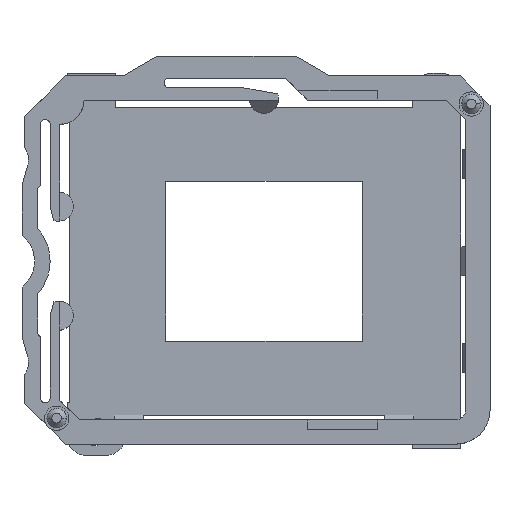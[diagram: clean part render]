
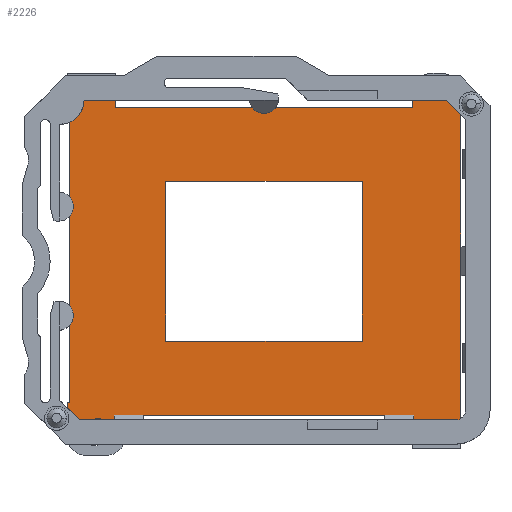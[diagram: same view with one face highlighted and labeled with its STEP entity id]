
A CAD part, top view. The second image highlights one B-rep face of the part: STEP entity #2226.
In plain terms, the highlighted planar face has unit normal (0, 0, 1).
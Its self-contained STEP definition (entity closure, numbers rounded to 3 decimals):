
#947=CARTESIAN_POINT('',(21.,-16.366,-0.91));
#948=VERTEX_POINT('',#947);
#956=CARTESIAN_POINT('',(20.5,-16.5,-0.91));
#957=VERTEX_POINT('',#956);
#958=CARTESIAN_POINT('',(20.5,-15.5,-0.91));
#959=DIRECTION('',(0.0,0.0,-1.));
#960=DIRECTION('',(0.707,-0.707,0.0));
#961=AXIS2_PLACEMENT_3D('',#958,#959,#960);
#962=CIRCLE('',#961,1.);
#963=EDGE_CURVE('',#948,#957,#962,.T.);
#2032=CARTESIAN_POINT('',(-19.64,19.25,-0.91));
#2033=DIRECTION('',(0.0,0.0,-1.0));
#2034=DIRECTION('',(-1.0,0.0,0.0));
#2035=AXIS2_PLACEMENT_3D('',#2032,#2033,#2034);
#2036=PLANE('',#2035);
#2037=CARTESIAN_POINT('',(-17.89,16.5,-0.91));
#2038=VERTEX_POINT('',#2037);
#2039=CARTESIAN_POINT('',(-14.64,16.5,-0.91));
#2040=VERTEX_POINT('',#2039);
#2041=CARTESIAN_POINT('',(-17.89,16.5,-0.91));
#2042=DIRECTION('',(1.0,0.0,0.0));
#2043=VECTOR('',#2042,3.25);
#2044=LINE('',#2041,#2043);
#2045=EDGE_CURVE('',#2038,#2040,#2044,.T.);
#2046=ORIENTED_EDGE('',*,*,#2045,.F.);
#2047=CARTESIAN_POINT('',(-19.386,14.21,-0.91));
#2048=VERTEX_POINT('',#2047);
#2049=CARTESIAN_POINT('',(-20.39,16.5,-0.91));
#2050=DIRECTION('',(0.0,0.0,1.0));
#2051=DIRECTION('',(1.0,0.0,0.0));
#2052=AXIS2_PLACEMENT_3D('',#2049,#2050,#2051);
#2053=CIRCLE('',#2052,2.5);
#2054=EDGE_CURVE('',#2048,#2038,#2053,.T.);
#2055=ORIENTED_EDGE('',*,*,#2054,.F.);
#2056=CARTESIAN_POINT('',(-19.386,-14.73,-0.91));
#2057=VERTEX_POINT('',#2056);
#2058=CARTESIAN_POINT('',(-19.386,14.21,-0.91));
#2059=DIRECTION('',(0.0,-1.0,0.0));
#2060=VECTOR('',#2059,28.94);
#2061=LINE('',#2058,#2060);
#2062=EDGE_CURVE('',#2048,#2057,#2061,.T.);
#2063=ORIENTED_EDGE('',*,*,#2062,.T.);
#2064=CARTESIAN_POINT('',(-19.64,-14.73,-0.91));
#2065=VERTEX_POINT('',#2064);
#2066=CARTESIAN_POINT('',(-19.386,-14.73,-0.91));
#2067=DIRECTION('',(-1.0,0.0,0.0));
#2068=VECTOR('',#2067,0.254);
#2069=LINE('',#2066,#2068);
#2070=EDGE_CURVE('',#2057,#2065,#2069,.T.);
#2071=ORIENTED_EDGE('',*,*,#2070,.T.);
#2072=CARTESIAN_POINT('',(-19.64,-15.25,-0.91));
#2073=VERTEX_POINT('',#2072);
#2074=CARTESIAN_POINT('',(-19.64,-15.25,-0.91));
#2075=DIRECTION('',(0.0,1.0,0.0));
#2076=VECTOR('',#2075,0.52);
#2077=LINE('',#2074,#2076);
#2078=EDGE_CURVE('',#2073,#2065,#2077,.T.);
#2079=ORIENTED_EDGE('',*,*,#2078,.F.);
#2080=CARTESIAN_POINT('',(-18.39,-16.5,-0.91));
#2081=VERTEX_POINT('',#2080);
#2082=CARTESIAN_POINT('',(-18.39,-16.5,-0.91));
#2083=DIRECTION('',(-0.707,0.707,0.));
#2084=VECTOR('',#2083,1.768);
#2085=LINE('',#2082,#2084);
#2086=EDGE_CURVE('',#2081,#2073,#2085,.T.);
#2087=ORIENTED_EDGE('',*,*,#2086,.F.);
#2088=CARTESIAN_POINT('',(-17.104,-16.5,-0.91));
#2089=VERTEX_POINT('',#2088);
#2090=CARTESIAN_POINT('',(-17.104,-16.5,-0.91));
#2091=DIRECTION('',(-1.0,0.0,0.0));
#2092=VECTOR('',#2091,1.286);
#2093=LINE('',#2090,#2092);
#2094=EDGE_CURVE('',#2089,#2081,#2093,.T.);
#2095=ORIENTED_EDGE('',*,*,#2094,.F.);
#2096=CARTESIAN_POINT('',(-15.822,-16.5,-0.91));
#2097=VERTEX_POINT('',#2096);
#2098=CARTESIAN_POINT('',(-16.463,-17.573,-0.91));
#2099=DIRECTION('',(0.0,0.0,-1.0));
#2100=DIRECTION('',(1.0,0.0,0.0));
#2101=AXIS2_PLACEMENT_3D('',#2098,#2099,#2100);
#2102=CIRCLE('',#2101,1.25);
#2103=EDGE_CURVE('',#2089,#2097,#2102,.T.);
#2104=ORIENTED_EDGE('',*,*,#2103,.T.);
#2105=CARTESIAN_POINT('',(-13.64,-16.5,-0.91));
#2106=VERTEX_POINT('',#2105);
#2107=CARTESIAN_POINT('',(-13.64,-16.5,-0.91));
#2108=DIRECTION('',(-1.0,0.0,0.0));
#2109=VECTOR('',#2108,2.182);
#2110=LINE('',#2107,#2109);
#2111=EDGE_CURVE('',#2106,#2097,#2110,.T.);
#2112=ORIENTED_EDGE('',*,*,#2111,.F.);
#2113=CARTESIAN_POINT('',(-13.64,-16.0,-0.91));
#2114=VERTEX_POINT('',#2113);
#2115=CARTESIAN_POINT('',(-13.64,-16.0,-0.91));
#2116=DIRECTION('',(0.0,-1.0,0.0));
#2117=VECTOR('',#2116,0.5);
#2118=LINE('',#2115,#2117);
#2119=EDGE_CURVE('',#2114,#2106,#2118,.T.);
#2120=ORIENTED_EDGE('',*,*,#2119,.F.);
#2121=CARTESIAN_POINT('',(16.,-16.0,-0.91));
#2122=VERTEX_POINT('',#2121);
#2123=CARTESIAN_POINT('',(16.,-16.0,-0.91));
#2124=DIRECTION('',(-1.0,0.0,0.0));
#2125=VECTOR('',#2124,29.64);
#2126=LINE('',#2123,#2125);
#2127=EDGE_CURVE('',#2122,#2114,#2126,.T.);
#2128=ORIENTED_EDGE('',*,*,#2127,.F.);
#2129=CARTESIAN_POINT('',(16.,-16.5,-0.91));
#2130=VERTEX_POINT('',#2129);
#2131=CARTESIAN_POINT('',(16.,-16.5,-0.91));
#2132=DIRECTION('',(0.0,1.0,0.0));
#2133=VECTOR('',#2132,0.5);
#2134=LINE('',#2131,#2133);
#2135=EDGE_CURVE('',#2130,#2122,#2134,.T.);
#2136=ORIENTED_EDGE('',*,*,#2135,.F.);
#2137=CARTESIAN_POINT('',(20.5,-16.5,-0.91));
#2138=DIRECTION('',(-1.0,0.0,0.0));
#2139=VECTOR('',#2138,4.5);
#2140=LINE('',#2137,#2139);
#2141=EDGE_CURVE('',#957,#2130,#2140,.T.);
#2142=ORIENTED_EDGE('',*,*,#2141,.F.);
#2143=ORIENTED_EDGE('',*,*,#963,.F.);
#2144=CARTESIAN_POINT('',(21.,15.,-0.91));
#2145=VERTEX_POINT('',#2144);
#2146=CARTESIAN_POINT('',(21.,15.,-0.91));
#2147=DIRECTION('',(0.0,-1.0,0.0));
#2148=VECTOR('',#2147,31.366);
#2149=LINE('',#2146,#2148);
#2150=EDGE_CURVE('',#2145,#948,#2149,.T.);
#2151=ORIENTED_EDGE('',*,*,#2150,.F.);
#2152=CARTESIAN_POINT('',(19.5,16.5,-0.91));
#2153=VERTEX_POINT('',#2152);
#2154=CARTESIAN_POINT('',(19.5,16.5,-0.91));
#2155=DIRECTION('',(0.707,-0.707,0.));
#2156=VECTOR('',#2155,2.121);
#2157=LINE('',#2154,#2156);
#2158=EDGE_CURVE('',#2153,#2145,#2157,.T.);
#2159=ORIENTED_EDGE('',*,*,#2158,.F.);
#2160=CARTESIAN_POINT('',(16.,16.5,-0.91));
#2161=VERTEX_POINT('',#2160);
#2162=CARTESIAN_POINT('',(16.,16.5,-0.91));
#2163=DIRECTION('',(1.0,0.0,0.0));
#2164=VECTOR('',#2163,3.5);
#2165=LINE('',#2162,#2164);
#2166=EDGE_CURVE('',#2161,#2153,#2165,.T.);
#2167=ORIENTED_EDGE('',*,*,#2166,.F.);
#2168=CARTESIAN_POINT('',(16.,15.75,-0.91));
#2169=VERTEX_POINT('',#2168);
#2170=CARTESIAN_POINT('',(16.,15.75,-0.91));
#2171=DIRECTION('',(0.0,1.0,0.0));
#2172=VECTOR('',#2171,0.75);
#2173=LINE('',#2170,#2172);
#2174=EDGE_CURVE('',#2169,#2161,#2173,.T.);
#2175=ORIENTED_EDGE('',*,*,#2174,.F.);
#2176=CARTESIAN_POINT('',(-14.64,15.75,-0.91));
#2177=VERTEX_POINT('',#2176);
#2178=CARTESIAN_POINT('',(-14.64,15.75,-0.91));
#2179=DIRECTION('',(1.0,0.0,0.0));
#2180=VECTOR('',#2179,30.64);
#2181=LINE('',#2178,#2180);
#2182=EDGE_CURVE('',#2177,#2169,#2181,.T.);
#2183=ORIENTED_EDGE('',*,*,#2182,.F.);
#2184=CARTESIAN_POINT('',(-14.64,16.5,-0.91));
#2185=DIRECTION('',(0.0,-1.0,0.0));
#2186=VECTOR('',#2185,0.75);
#2187=LINE('',#2184,#2186);
#2188=EDGE_CURVE('',#2040,#2177,#2187,.T.);
#2189=ORIENTED_EDGE('',*,*,#2188,.F.);
#2190=EDGE_LOOP('',(#2046,#2055,#2063,#2071,#2079,#2087,#2095,#2104,#2112,#2120,#2128,#2136,#2142,#2143,#2151,#2159,#2167,#2175,#2183,#2189));
#2191=FACE_OUTER_BOUND('',#2190,.T.);
#2192=CARTESIAN_POINT('',(10.83,-8.375,-0.91));
#2193=VERTEX_POINT('',#2192);
#2194=CARTESIAN_POINT('',(-9.47,-8.375,-0.91));
#2195=VERTEX_POINT('',#2194);
#2196=CARTESIAN_POINT('',(10.83,-8.375,-0.91));
#2197=DIRECTION('',(-1.0,0.0,0.0));
#2198=VECTOR('',#2197,20.3);
#2199=LINE('',#2196,#2198);
#2200=EDGE_CURVE('',#2193,#2195,#2199,.T.);
#2201=ORIENTED_EDGE('',*,*,#2200,.T.);
#2202=CARTESIAN_POINT('',(-9.47,8.125,-0.91));
#2203=VERTEX_POINT('',#2202);
#2204=CARTESIAN_POINT('',(-9.47,-8.375,-0.91));
#2205=DIRECTION('',(0.0,1.0,0.0));
#2206=VECTOR('',#2205,16.5);
#2207=LINE('',#2204,#2206);
#2208=EDGE_CURVE('',#2195,#2203,#2207,.T.);
#2209=ORIENTED_EDGE('',*,*,#2208,.T.);
#2210=CARTESIAN_POINT('',(10.83,8.125,-0.91));
#2211=VERTEX_POINT('',#2210);
#2212=CARTESIAN_POINT('',(-9.47,8.125,-0.91));
#2213=DIRECTION('',(1.0,0.0,0.0));
#2214=VECTOR('',#2213,20.3);
#2215=LINE('',#2212,#2214);
#2216=EDGE_CURVE('',#2203,#2211,#2215,.T.);
#2217=ORIENTED_EDGE('',*,*,#2216,.T.);
#2218=CARTESIAN_POINT('',(10.83,-8.375,-0.91));
#2219=DIRECTION('',(0.0,1.0,0.0));
#2220=VECTOR('',#2219,16.5);
#2221=LINE('',#2218,#2220);
#2222=EDGE_CURVE('',#2193,#2211,#2221,.T.);
#2223=ORIENTED_EDGE('',*,*,#2222,.F.);
#2224=EDGE_LOOP('',(#2201,#2209,#2217,#2223));
#2225=FACE_BOUND('',#2224,.T.);
#2226=ADVANCED_FACE('',(#2191,#2225),#2036,.F.);
